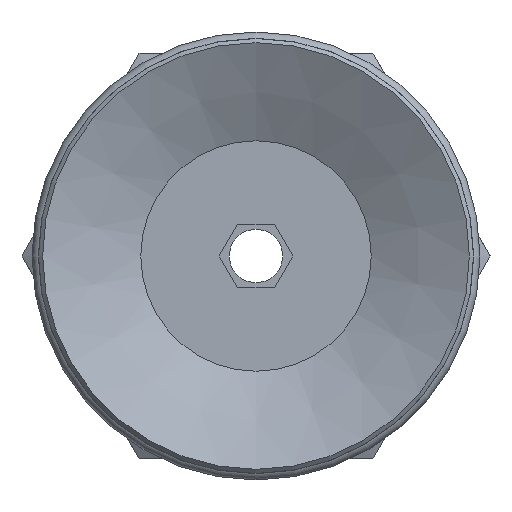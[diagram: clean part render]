
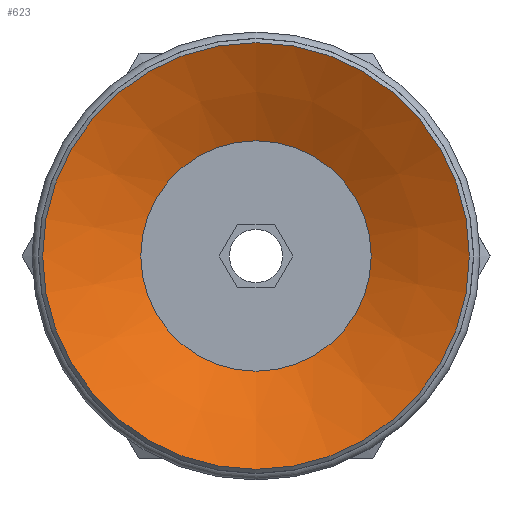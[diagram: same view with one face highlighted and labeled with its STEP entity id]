
A CAD part, front view. The second image highlights one B-rep face of the part: STEP entity #623.
In plain terms, the highlighted conical face has half-angle 63 degrees and reference radius 5.4 mm.
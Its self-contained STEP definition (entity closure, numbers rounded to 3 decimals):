
#623=ADVANCED_FACE('',(#911,#912),#913,.F.);
#911=FACE_BOUND('',#1236,.T.);
#912=FACE_OUTER_BOUND('',#1237,.T.);
#913=CONICAL_SURFACE('',#1238,5.4,1.1);
#1236=EDGE_LOOP('',(#2050));
#1237=EDGE_LOOP('',(#2051));
#1238=AXIS2_PLACEMENT_3D('',#2052,#2053,#2054);
#2050=ORIENTED_EDGE('',*,*,#2394,.F.);
#2051=ORIENTED_EDGE('',*,*,#2395,.T.);
#2052=CARTESIAN_POINT('',(0.0,5.518,0.0));
#2053=DIRECTION('',(-0.0,-1.0,0.));
#2054=DIRECTION('',(0.0,0.,-1.0));
#2394=EDGE_CURVE('',#2785,#2785,#2786,.T.);
#2395=EDGE_CURVE('',#2787,#2787,#2788,.T.);
#2785=VERTEX_POINT('',#3629);
#2786=CIRCLE('',#3630,5.4);
#2787=VERTEX_POINT('',#3631);
#2788=CIRCLE('',#3632,10.0);
#3629=CARTESIAN_POINT('',(0.0,5.518,-5.4));
#3630=AXIS2_PLACEMENT_3D('',#4019,#4020,#4021);
#3631=CARTESIAN_POINT('',(0.0,3.175,-10.0));
#3632=AXIS2_PLACEMENT_3D('',#4022,#4023,#4024);
#4019=CARTESIAN_POINT('',(0.0,5.518,0.0));
#4020=DIRECTION('',(0.0,-1.0,0.));
#4021=DIRECTION('',(0.0,0.,-1.0));
#4022=CARTESIAN_POINT('',(0.0,3.175,0.0));
#4023=DIRECTION('',(0.0,-1.0,0.));
#4024=DIRECTION('',(0.0,0.,-1.0));
